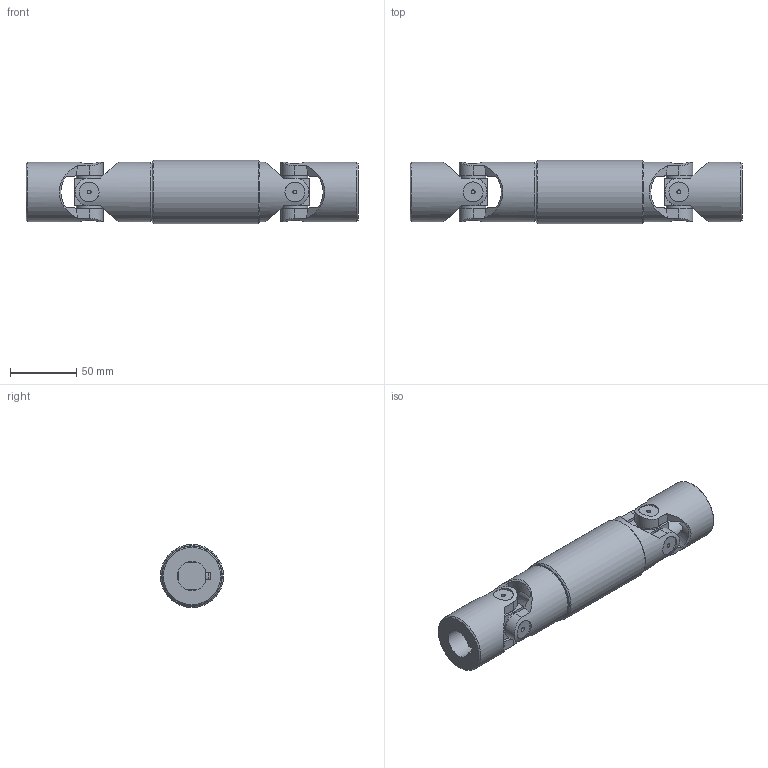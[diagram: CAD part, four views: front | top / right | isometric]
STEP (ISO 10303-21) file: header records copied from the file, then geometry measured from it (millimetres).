
FILE_DESCRIPTION(/* description */ (''),/* implementation_level */ '2;1');
FILE_NAME(/* name */ '\\SRV2016\Societa\Stefano\Disegni 3D\00Catalogo 3D\03Trasmissioni standard GA\4GA05\4GA05_SG0A2205.stp',/* time_stamp */ '2022-03-15T15:41:23+01:00',/* author */ ('acquisti'),/* organization */ (''),/* preprocessor_version */ 'ST-DEVELOPER v15.6',/* originating_system */ 'Autodesk Inventor 2015',/* authorisation */ '');
FILE_SCHEMA (('AUTOMOTIVE_DESIGN { 1 0 10303 214 3 1 1 }'));
Length unit declared in the file: millimetre
Products named in the file (5): 4G MOC; 4GA SFE; 4GA05 LCI; 4GA05 LAI; 4GA05_SG0A2205
Assembly tree (6 placements, depth 2):
  4GA05_SG0A2205
    4G MOC  x2
    4GA SFE  x2
    4GA05 LCI
    4GA05 LAI
Bounding box: 250 x 47.5 x 47.5 mm (x, y, z)
Volume: 308499.8 mm3; surface area: 75102.6 mm2
Topology: 6 solids, 6 shells, 204 faces, 513 edges, 345 vertices
Faces by surface type: plane 106, cylinder 69, cone 25, torus 4
Full cylindrical faces by diameter (mm): 3 x8, 15 x8, 19 x8, 22 x1, 23 x2, 39 x1, 45 x4, 47.5 x1
Entity records: 5283 total; most frequent: CARTESIAN_POINT 1527, DIRECTION 751, ORIENTED_EDGE 736, EDGE_CURVE 368, AXIS2_PLACEMENT_3D 299, VERTEX_POINT 268, EDGE_LOOP 212, FACE_OUTER_BOUND 158
